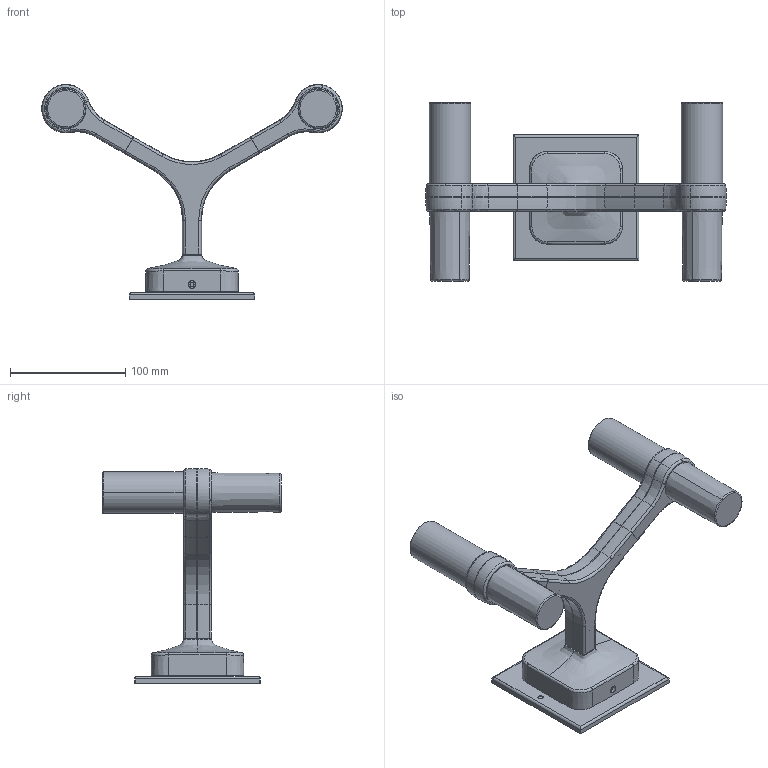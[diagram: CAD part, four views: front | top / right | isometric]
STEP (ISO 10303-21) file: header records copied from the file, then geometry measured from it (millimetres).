
FILE_DESCRIPTION (( 'STEP AP203' ), '1' );
FILE_NAME ('CROWN PARETE 2 LUCI cover plate.STEP', '2017-07-28T11:17:37', ( 'user' ), ( '' ), 'SwSTEP 2.0', 'SolidWorks 2016', '' );
FILE_SCHEMA (( 'CONFIG_CONTROL_DESIGN' ));
Length unit declared in the file: millimetre
Products named in the file (10): 061CRO701200; 010MYR007600_Square cover plate; 524LCY000001_Crossbar; 051CRO702200_COPERCHIO ROSONE 80X80 AL_mito; CROWN PARETE 2 LUCI cover plate; 051CRO701600_TRITTICO_INF_PARETE_MITO; 051CRO701500_TRITTICO_SUP_PARETE_MITO; 051CRO701700_BRACCIO_PTL_INF_PARETE_MITO; 051CRO700800_BICCHIERE; 051CRO701800_BRACCIO_PTL_SUP_PARETE_MITO
Assembly tree (13 placements, depth 2):
  CROWN PARETE 2 LUCI cover plate
    051CRO702200_COPERCHIO ROSONE 80X80 AL_mito
    051CRO701600_TRITTICO_INF_PARETE_MITO
    051CRO701500_TRITTICO_SUP_PARETE_MITO
    051CRO701700_BRACCIO_PTL_INF_PARETE_MITO  x2
    051CRO700800_BICCHIERE  x2
    051CRO701800_BRACCIO_PTL_SUP_PARETE_MITO  x2
    061CRO701200  x2
    010MYR007600_Square cover plate
    524LCY000001_Crossbar
Bounding box: 260.76 x 154.5 x 186.45 mm (x, y, z)
Volume: 187183.6 mm3; surface area: 186306.1 mm2
Topology: 12 solids, 14 shells, 3186 faces, 8342 edges, 5261 vertices
Faces by surface type: plane 1694, bspline 603, cylinder 594, cone 135, torus 124, sphere 36
Entity records: 118987 total; most frequent: CARTESIAN_POINT 58701, ORIENTED_EDGE 13212, DIRECTION 10992, EDGE_CURVE 6608, VERTEX_POINT 4162, VECTOR 4020, LINE 4020, AXIS2_PLACEMENT_3D 3486
